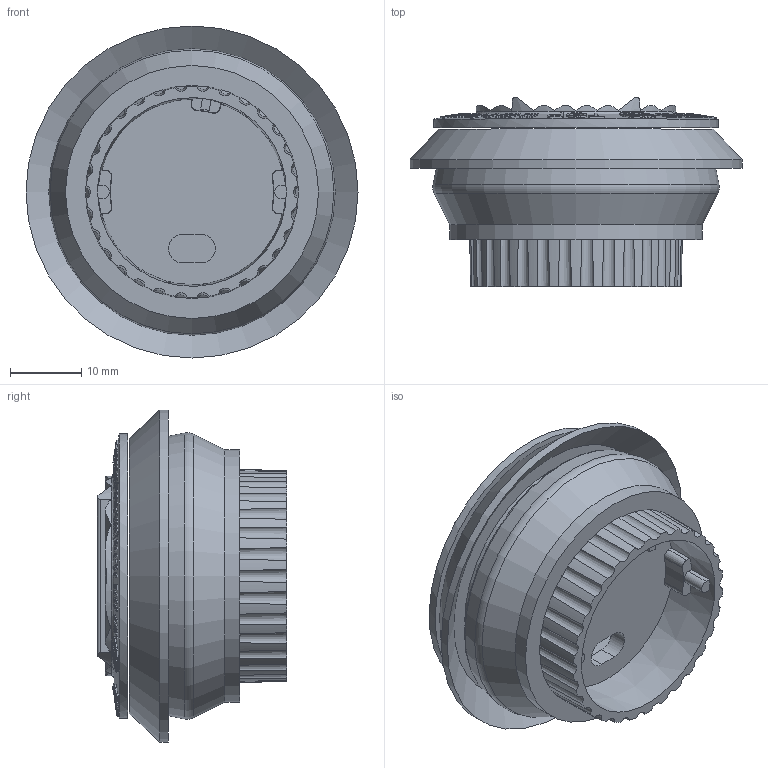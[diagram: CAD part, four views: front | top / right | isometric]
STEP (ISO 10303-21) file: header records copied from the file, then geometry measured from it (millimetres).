
FILE_DESCRIPTION(/* description */ (''),/* implementation_level */ '2;1');
FILE_NAME(/* name */ '0-ANT-Pro-ASM.stp',/* time_stamp */ '2016-04-29T08:50:45+08:00',/* author */ (''),/* organization */ (''),/* preprocessor_version */ 'ST-DEVELOPER v15',/* originating_system */ 'SIEMENS PLM Software NX 8.5',/* authorisation */ '');
FILE_SCHEMA (('AUTOMOTIVE_DESIGN { 1 0 10303 214 3 1 1 1 }'));
Products named in the file (1): Admi05E88F28deb5
Bounding box: 46.6 x 26.57 x 46.6 mm (x, y, z)
Volume: 15028.5 mm3; surface area: 14344.2 mm2
Topology: 3 solids, 3 shells, 1124 faces, 2994 edges, 1992 vertices
Faces by surface type: plane 453, extrusion 451, cone 196, cylinder 20, bspline 2, torus 2
Full cylindrical faces by diameter (mm): 1.7 x2, 4.8 x2, 5 x2, 29.5 x1, 29.9 x1, 35.5 x1, 46.6 x1
Entity records: 51465 total; most frequent: CARTESIAN_POINT 27027, ORIENTED_EDGE 5904, DIRECTION 3107, EDGE_CURVE 2952, B_SPLINE_CURVE_WITH_KNOTS 2281, VERTEX_POINT 1978, VECTOR 1383, EDGE_LOOP 1272
